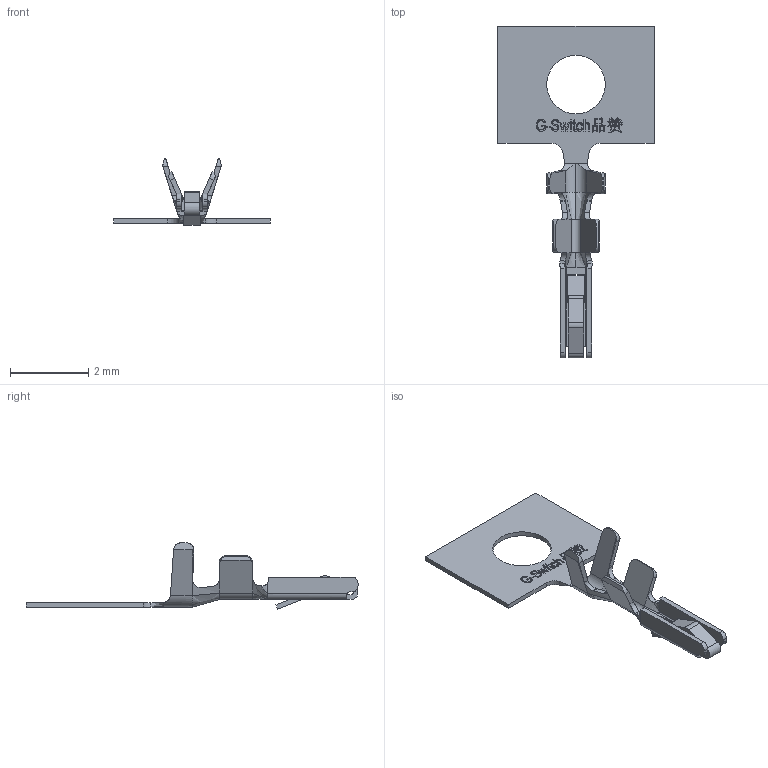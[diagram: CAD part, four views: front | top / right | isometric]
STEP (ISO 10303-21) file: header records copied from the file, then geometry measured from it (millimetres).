
FILE_DESCRIPTION (( 'STEP AP203' ), '1' );
FILE_NAME ('GT-A1257TF-PBT1.STEP', '2024-06-24T03:02:13', ( '' ), ( '' ), 'SwSTEP 2.0', 'SolidWorks 2020', '' );
FILE_SCHEMA (( 'CONFIG_CONTROL_DESIGN' ));
Length unit declared in the file: millimetre
Products named in the file (1): GT-A1257TF-PBT1
Bounding box: 4 x 8.5 x 1.7 mm (x, y, z)
Volume: 2.4 mm3; surface area: 46.4 mm2
Topology: 1 solids, 1 shells, 402 faces, 1111 edges, 731 vertices
Faces by surface type: plane 259, bspline 98, cylinder 45
Entity records: 17460 total; most frequent: CARTESIAN_POINT 7935, ORIENTED_EDGE 2222, DIRECTION 1480, EDGE_CURVE 1111, LINE 786, VECTOR 786, VERTEX_POINT 731, EDGE_LOOP 426
